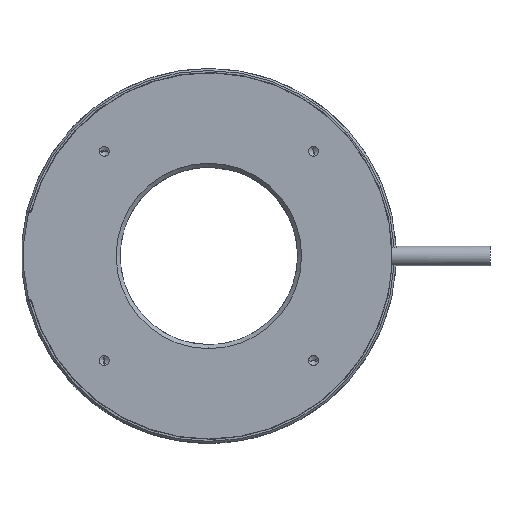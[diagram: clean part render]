
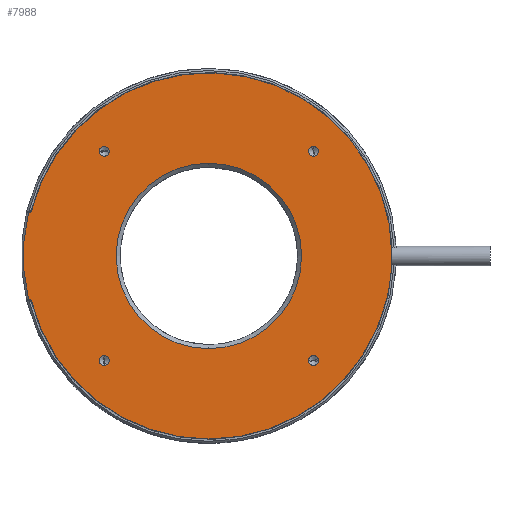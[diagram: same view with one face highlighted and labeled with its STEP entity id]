
A CAD part, top view. The second image highlights one B-rep face of the part: STEP entity #7988.
In plain terms, the highlighted planar face has unit normal (0, 0, 1).
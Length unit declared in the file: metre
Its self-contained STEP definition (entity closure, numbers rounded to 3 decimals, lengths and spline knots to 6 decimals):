
#1442=CARTESIAN_POINT('',(0.,0.,0.002));
#1443=DIRECTION('',(0.,0.,-1.));
#1444=DIRECTION('',(0.,1.,0.));
#1445=AXIS2_PLACEMENT_3D('',#1442,#1443,#1444);
#1447=CARTESIAN_POINT('',(0.,0.,0.002));
#1448=DIRECTION('',(0.,0.,-1.));
#1449=DIRECTION('',(0.,-1.,0.));
#1450=AXIS2_PLACEMENT_3D('',#1447,#1448,#1449);
#1452=CARTESIAN_POINT('',(0.026517,0.026517,0.002));
#1453=DIRECTION('',(0.,0.,-1.));
#1454=DIRECTION('',(0.,1.,0.));
#1455=AXIS2_PLACEMENT_3D('',#1452,#1453,#1454);
#1457=CARTESIAN_POINT('',(0.026517,0.026517,0.002));
#1458=DIRECTION('',(0.,0.,-1.));
#1459=DIRECTION('',(0.,-1.,0.));
#1460=AXIS2_PLACEMENT_3D('',#1457,#1458,#1459);
#1462=CARTESIAN_POINT('',(-0.026517,0.026517,0.002));
#1463=DIRECTION('',(0.,0.,-1.));
#1464=DIRECTION('',(-1.,0.,0.));
#1465=AXIS2_PLACEMENT_3D('',#1462,#1463,#1464);
#1467=CARTESIAN_POINT('',(-0.026517,0.026517,0.002));
#1468=DIRECTION('',(0.,0.,-1.));
#1469=DIRECTION('',(1.,0.,0.));
#1470=AXIS2_PLACEMENT_3D('',#1467,#1468,#1469);
#1472=CARTESIAN_POINT('',(-0.026517,-0.026517,0.002));
#1473=DIRECTION('',(0.,0.,-1.));
#1474=DIRECTION('',(0.,-1.,0.));
#1475=AXIS2_PLACEMENT_3D('',#1472,#1473,#1474);
#1477=CARTESIAN_POINT('',(-0.026517,-0.026517,0.002));
#1478=DIRECTION('',(0.,0.,-1.));
#1479=DIRECTION('',(0.,1.,0.));
#1480=AXIS2_PLACEMENT_3D('',#1477,#1478,#1479);
#1482=CARTESIAN_POINT('',(0.026517,-0.026517,0.002));
#1483=DIRECTION('',(0.,0.,-1.));
#1484=DIRECTION('',(1.,0.,0.));
#1485=AXIS2_PLACEMENT_3D('',#1482,#1483,#1484);
#1487=CARTESIAN_POINT('',(0.026517,-0.026517,0.002));
#1488=DIRECTION('',(0.,0.,-1.));
#1489=DIRECTION('',(-1.,0.,0.));
#1490=AXIS2_PLACEMENT_3D('',#1487,#1488,#1489);
#1492=CARTESIAN_POINT('',(-0.045468,0.0115,0.002));
#1493=DIRECTION('',(0.,0.,-1.));
#1494=DIRECTION('',(0.969,-0.245,0.));
#1495=AXIS2_PLACEMENT_3D('',#1492,#1493,#1494);
#1497=CARTESIAN_POINT('',(0.,0.,0.002));
#1498=DIRECTION('',(0.,0.,1.));
#1499=DIRECTION('',(1.,0.,0.));
#1500=AXIS2_PLACEMENT_3D('',#1497,#1498,#1499);
#1502=CARTESIAN_POINT('',(0.,0.,0.002));
#1503=DIRECTION('',(0.,0.,1.));
#1504=DIRECTION('',(0.969,-0.245,0.));
#1505=AXIS2_PLACEMENT_3D('',#1502,#1503,#1504);
#1507=CARTESIAN_POINT('',(0.,0.,0.002));
#1508=DIRECTION('',(0.,0.,1.));
#1509=DIRECTION('',(-0.969,-0.245,0.));
#1510=AXIS2_PLACEMENT_3D('',#1507,#1508,#1509);
#1512=CARTESIAN_POINT('',(-0.045468,-0.0115,0.002));
#1513=DIRECTION('',(0.,0.,-1.));
#1514=DIRECTION('',(0.,1.,0.));
#1515=AXIS2_PLACEMENT_3D('',#1512,#1513,#1514);
#1517=CARTESIAN_POINT('',(0.,0.,0.002));
#1518=DIRECTION('',(0.,0.,1.));
#1519=DIRECTION('',(-0.972,0.234,0.));
#1520=AXIS2_PLACEMENT_3D('',#1517,#1518,#1519);
#1634=DIRECTION('',(1.,0.,0.));
#1635=VECTOR('',#1634,0.000226);
#1636=CARTESIAN_POINT('',(-0.045695,0.011,0.002));
#1637=LINE('',#1636,#1635);
#4500=DIRECTION('',(-1.,0.,0.));
#4501=VECTOR('',#4500,0.000226);
#4502=CARTESIAN_POINT('',(-0.045468,-0.011,0.002));
#4503=LINE('',#4502,#4501);
#4718=CARTESIAN_POINT('',(-0.044983,-0.011377,0.002));
#4719=CARTESIAN_POINT('',(0.044983,-0.011377,0.002));
#4720=VERTEX_POINT('',#4718);
#4721=VERTEX_POINT('',#4719);
#4722=CARTESIAN_POINT('',(0.0464,0.,0.002));
#4723=VERTEX_POINT('',#4722);
#4724=CARTESIAN_POINT('',(-0.044983,0.011377,0.002));
#4725=VERTEX_POINT('',#4724);
#4726=CARTESIAN_POINT('',(-0.045468,-0.011,0.002));
#4727=VERTEX_POINT('',#4726);
#4728=CARTESIAN_POINT('',(-0.045695,-0.011,0.002));
#4729=VERTEX_POINT('',#4728);
#4730=CARTESIAN_POINT('',(-0.045695,0.011,0.002));
#4731=VERTEX_POINT('',#4730);
#4732=CARTESIAN_POINT('',(-0.045468,0.011,0.002));
#4733=VERTEX_POINT('',#4732);
#4734=CARTESIAN_POINT('',(0.025267,-0.026517,0.002));
#4735=CARTESIAN_POINT('',(0.027767,-0.026517,0.002));
#4736=VERTEX_POINT('',#4734);
#4737=VERTEX_POINT('',#4735);
#4738=CARTESIAN_POINT('',(-0.026517,-0.025267,0.002));
#4739=CARTESIAN_POINT('',(-0.026517,-0.027767,0.002));
#4740=VERTEX_POINT('',#4738);
#4741=VERTEX_POINT('',#4739);
#4742=CARTESIAN_POINT('',(-0.025267,0.026517,0.002));
#4743=CARTESIAN_POINT('',(-0.027767,0.026517,0.002));
#4744=VERTEX_POINT('',#4742);
#4745=VERTEX_POINT('',#4743);
#4746=CARTESIAN_POINT('',(0.026517,0.025267,0.002));
#4747=CARTESIAN_POINT('',(0.026517,0.027767,0.002));
#4748=VERTEX_POINT('',#4746);
#4749=VERTEX_POINT('',#4747);
#4750=CARTESIAN_POINT('',(0.,-0.0235,0.002));
#4751=CARTESIAN_POINT('',(0.,0.0235,0.002));
#4752=VERTEX_POINT('',#4750);
#4753=VERTEX_POINT('',#4751);
#7937=CARTESIAN_POINT('',(0.,0.,0.002));
#7938=DIRECTION('',(0.,0.,-1.));
#7939=DIRECTION('',(0.,1.,0.));
#7940=AXIS2_PLACEMENT_3D('',#7937,#7938,#7939);
#7941=PLANE('',#7940);
#7943=ORIENTED_EDGE('',*,*,#7942,.F.);
#7945=ORIENTED_EDGE('',*,*,#7944,.F.);
#7947=ORIENTED_EDGE('',*,*,#7946,.F.);
#7949=ORIENTED_EDGE('',*,*,#7948,.F.);
#7951=ORIENTED_EDGE('',*,*,#7950,.F.);
#7953=ORIENTED_EDGE('',*,*,#7952,.T.);
#7955=ORIENTED_EDGE('',*,*,#7954,.F.);
#7957=ORIENTED_EDGE('',*,*,#7956,.T.);
#7958=EDGE_LOOP('',(#7943,#7945,#7947,#7949,#7951,#7953,#7955,#7957));
#7959=FACE_OUTER_BOUND('',#7958,.F.);
#7961=ORIENTED_EDGE('',*,*,#7960,.F.);
#7963=ORIENTED_EDGE('',*,*,#7962,.F.);
#7964=EDGE_LOOP('',(#7961,#7963));
#7965=FACE_BOUND('',#7964,.F.);
#7967=ORIENTED_EDGE('',*,*,#7966,.F.);
#7969=ORIENTED_EDGE('',*,*,#7968,.F.);
#7970=EDGE_LOOP('',(#7967,#7969));
#7971=FACE_BOUND('',#7970,.F.);
#7973=ORIENTED_EDGE('',*,*,#7972,.F.);
#7975=ORIENTED_EDGE('',*,*,#7974,.F.);
#7976=EDGE_LOOP('',(#7973,#7975));
#7977=FACE_BOUND('',#7976,.F.);
#7979=ORIENTED_EDGE('',*,*,#7978,.F.);
#7981=ORIENTED_EDGE('',*,*,#7980,.F.);
#7982=EDGE_LOOP('',(#7979,#7981));
#7983=FACE_BOUND('',#7982,.F.);
#7984=ORIENTED_EDGE('',*,*,#7930,.F.);
#7985=ORIENTED_EDGE('',*,*,#7916,.F.);
#7986=EDGE_LOOP('',(#7984,#7985));
#7987=FACE_BOUND('',#7986,.F.);
#7988=ADVANCED_FACE('',(#7959,#7965,#7971,#7977,#7983,#7987),#7941,.F.);
#1446=CIRCLE('',#1445,0.0235);
#1451=CIRCLE('',#1450,0.0235);
#1456=CIRCLE('',#1455,0.00125);
#1461=CIRCLE('',#1460,0.00125);
#1466=CIRCLE('',#1465,0.00125);
#1471=CIRCLE('',#1470,0.00125);
#1476=CIRCLE('',#1475,0.00125);
#1481=CIRCLE('',#1480,0.00125);
#1486=CIRCLE('',#1485,0.00125);
#1491=CIRCLE('',#1490,0.00125);
#1496=CIRCLE('',#1495,0.0005);
#1501=CIRCLE('',#1500,0.0464);
#1506=CIRCLE('',#1505,0.0464);
#1511=CIRCLE('',#1510,0.0464);
#1516=CIRCLE('',#1515,0.0005);
#1521=CIRCLE('',#1520,0.047);
#7916=EDGE_CURVE('',#4752,#4753,#1451,.T.);
#7930=EDGE_CURVE('',#4753,#4752,#1446,.T.);
#7942=EDGE_CURVE('',#4725,#4733,#1496,.T.);
#7944=EDGE_CURVE('',#4723,#4725,#1501,.T.);
#7946=EDGE_CURVE('',#4721,#4723,#1506,.T.);
#7948=EDGE_CURVE('',#4720,#4721,#1511,.T.);
#7950=EDGE_CURVE('',#4727,#4720,#1516,.T.);
#7952=EDGE_CURVE('',#4727,#4729,#4503,.T.);
#7954=EDGE_CURVE('',#4731,#4729,#1521,.T.);
#7956=EDGE_CURVE('',#4731,#4733,#1637,.T.);
#7960=EDGE_CURVE('',#4749,#4748,#1456,.T.);
#7962=EDGE_CURVE('',#4748,#4749,#1461,.T.);
#7966=EDGE_CURVE('',#4745,#4744,#1466,.T.);
#7968=EDGE_CURVE('',#4744,#4745,#1471,.T.);
#7972=EDGE_CURVE('',#4741,#4740,#1476,.T.);
#7974=EDGE_CURVE('',#4740,#4741,#1481,.T.);
#7978=EDGE_CURVE('',#4737,#4736,#1486,.T.);
#7980=EDGE_CURVE('',#4736,#4737,#1491,.T.);
